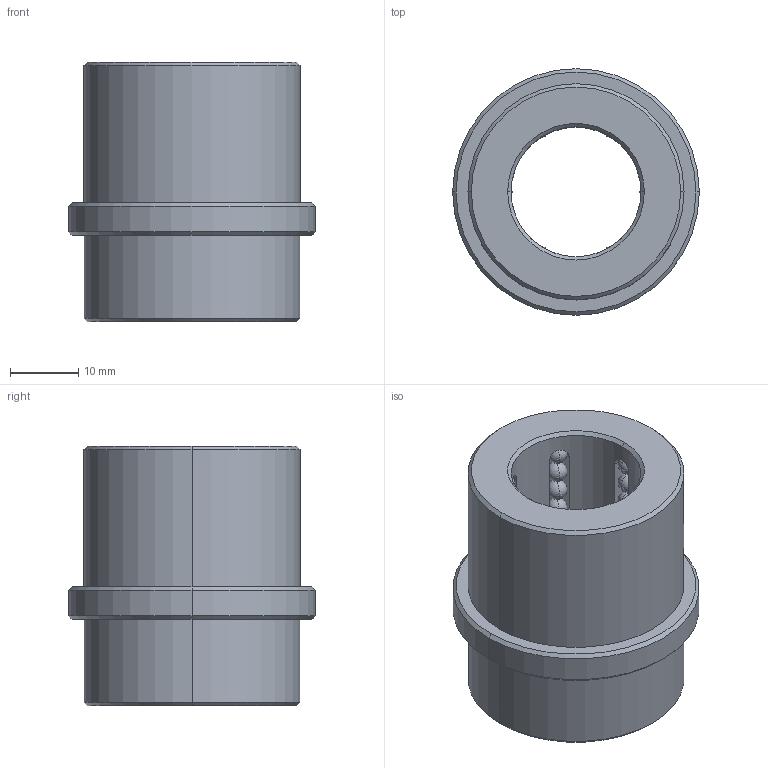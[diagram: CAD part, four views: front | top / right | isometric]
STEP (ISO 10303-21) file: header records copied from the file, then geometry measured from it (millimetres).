
FILE_DESCRIPTION((''),'2;1');
FILE_NAME('BGEB0750','2018-01-06T',('MANU'),(''),'PRO/ENGINEER BY PARAMETRIC TECHNOLOGY CORPORATION, 2012130','PRO/ENGINEER BY PARAMETRIC TECHNOLOGY CORPORATION, 2012130','');
FILE_SCHEMA(('CONFIG_CONTROL_DESIGN'));
Length unit declared in the file: millimetre
Products named in the file (1): BGEB0750
Bounding box: 36.25 x 36.25 x 38.1 mm (x, y, z)
Volume: 19550.6 mm3; surface area: 10382.3 mm2
Topology: 61 solids, 61 shells, 174 faces, 486 edges, 200 vertices
Faces by surface type: sphere 120, plane 22, cylinder 20, cone 12
Entity records: 4026 total; most frequent: CARTESIAN_POINT 822, DIRECTION 738, ORIENTED_EDGE 492, AXIS2_PLACEMENT_3D 334, EDGE_CURVE 246, VERTEX_POINT 200, EDGE_LOOP 182, FACE_OUTER_BOUND 174
